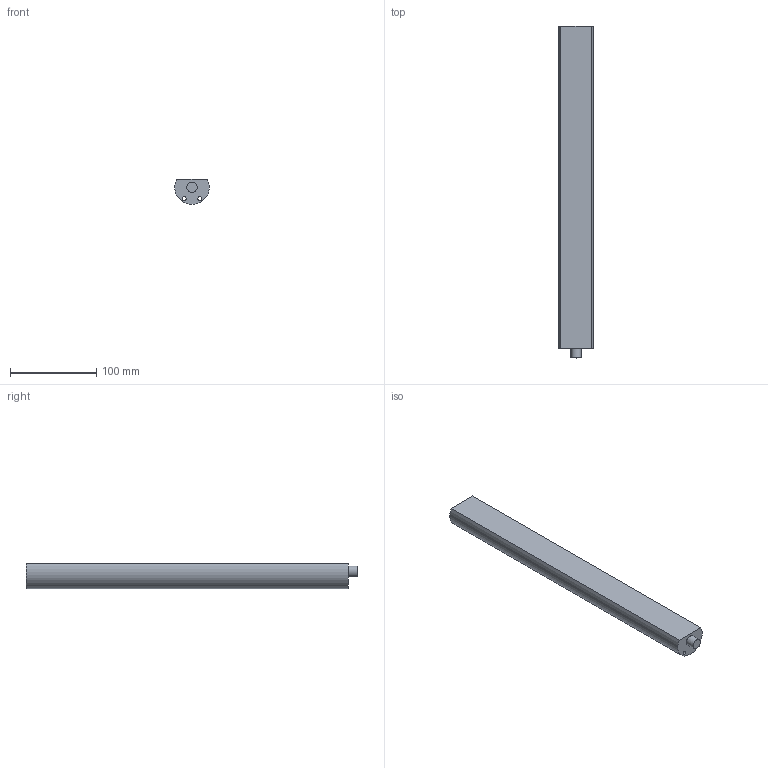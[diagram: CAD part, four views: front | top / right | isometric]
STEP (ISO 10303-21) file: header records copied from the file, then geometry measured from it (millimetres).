
FILE_DESCRIPTION(('FreeCAD Model'),'2;1');
FILE_NAME('Open CASCADE Shape Model','2026-01-08T09:09:15',(''),(''), 'Open CASCADE STEP processor 7.6','FreeCAD','Unknown');
FILE_SCHEMA(('AUTOMOTIVE_DESIGN { 1 0 10303 214 1 1 1 1 }'));
Length unit declared in the file: millimetre
Products named in the file (1): Körper
Bounding box: 39.96 x 384 x 29 mm (x, y, z)
Volume: 353341.6 mm3; surface area: 56573.3 mm2
Topology: 1 solids, 1 shells, 8 faces, 15 edges, 10 vertices
Faces by surface type: cylinder 4, plane 4
Full cylindrical faces by diameter (mm): 4.5 x2, 12 x1
Entity records: 237 total; most frequent: DIRECTION 41, CARTESIAN_POINT 34, ORIENTED_EDGE 30, AXIS2_PLACEMENT_3D 17, EDGE_CURVE 15, FACE_BOUND 13, EDGE_LOOP 13, VERTEX_POINT 10
